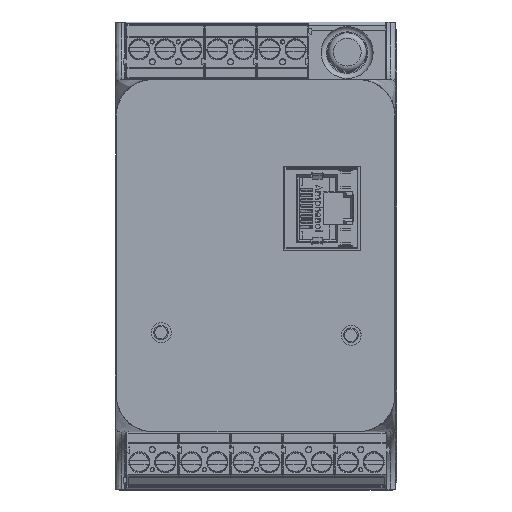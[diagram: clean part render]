
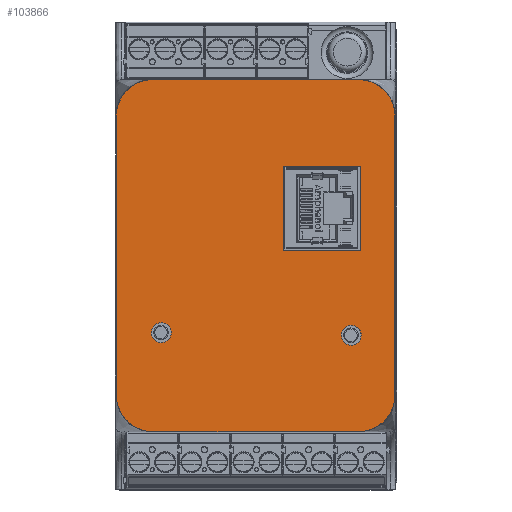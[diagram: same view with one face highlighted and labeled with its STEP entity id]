
A CAD part, top view. The second image highlights one B-rep face of the part: STEP entity #103866.
In plain terms, the highlighted planar face has unit normal (0, 0, 1).
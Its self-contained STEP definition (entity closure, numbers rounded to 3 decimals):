
#1016=ELLIPSE('',#109340,1.9,1.899);
#1017=ELLIPSE('',#109341,1.9,1.899);
#1232=FACE_BOUND('',#9302,.T.);
#1233=FACE_BOUND('',#9303,.T.);
#1234=FACE_BOUND('',#9304,.T.);
#1583=CIRCLE('',#109348,7.);
#1584=CIRCLE('',#109351,7.);
#1585=CIRCLE('',#109352,7.);
#1586=CIRCLE('',#109353,7.);
#3969=FACE_OUTER_BOUND('',#9301,.T.);
#9301=EDGE_LOOP('',(#66472,#66473,#66474,#66475,#66476,#66477,#66478,#66479));
#9302=EDGE_LOOP('',(#66480));
#9303=EDGE_LOOP('',(#66481));
#9304=EDGE_LOOP('',(#66482,#66483,#66484,#66485));
#15481=LINE('',#148129,#28032);
#15483=LINE('',#148133,#28034);
#15485=LINE('',#148137,#28036);
#15487=LINE('',#148140,#28038);
#15490=LINE('',#148152,#28041);
#15493=LINE('',#148157,#28044);
#15494=LINE('',#148161,#28045);
#15495=LINE('',#148165,#28046);
#28032=VECTOR('',#117610,10.);
#28034=VECTOR('',#117614,10.);
#28036=VECTOR('',#117618,10.);
#28038=VECTOR('',#117622,10.);
#28041=VECTOR('',#117633,10.);
#28044=VECTOR('',#117638,10.);
#28045=VECTOR('',#117641,10.);
#28046=VECTOR('',#117644,10.);
#40547=VERTEX_POINT('',#148101);
#40548=VERTEX_POINT('',#148122);
#40549=VERTEX_POINT('',#148126);
#40550=VERTEX_POINT('',#148128);
#40551=VERTEX_POINT('',#148132);
#40552=VERTEX_POINT('',#148136);
#40555=VERTEX_POINT('',#148145);
#40556=VERTEX_POINT('',#148147);
#40557=VERTEX_POINT('',#148151);
#40558=VERTEX_POINT('',#148156);
#40559=VERTEX_POINT('',#148158);
#40560=VERTEX_POINT('',#148160);
#40561=VERTEX_POINT('',#148162);
#40562=VERTEX_POINT('',#148164);
#50651=EDGE_CURVE('',#40547,#40547,#1016,.T.);
#50653=EDGE_CURVE('',#40548,#40548,#1017,.T.);
#50656=EDGE_CURVE('',#40550,#40549,#15481,.T.);
#50658=EDGE_CURVE('',#40551,#40550,#15483,.T.);
#50660=EDGE_CURVE('',#40552,#40551,#15485,.T.);
#50662=EDGE_CURVE('',#40549,#40552,#15487,.T.);
#50665=EDGE_CURVE('',#40555,#40556,#1583,.T.);
#50667=EDGE_CURVE('',#40557,#40556,#15490,.T.);
#50670=EDGE_CURVE('',#40555,#40558,#15493,.T.);
#50671=EDGE_CURVE('',#40559,#40558,#1584,.T.);
#50672=EDGE_CURVE('',#40559,#40560,#15494,.T.);
#50673=EDGE_CURVE('',#40561,#40560,#1585,.T.);
#50674=EDGE_CURVE('',#40561,#40562,#15495,.T.);
#50675=EDGE_CURVE('',#40557,#40562,#1586,.T.);
#66472=ORIENTED_EDGE('',*,*,#50665,.F.);
#66473=ORIENTED_EDGE('',*,*,#50670,.T.);
#66474=ORIENTED_EDGE('',*,*,#50671,.F.);
#66475=ORIENTED_EDGE('',*,*,#50672,.T.);
#66476=ORIENTED_EDGE('',*,*,#50673,.F.);
#66477=ORIENTED_EDGE('',*,*,#50674,.T.);
#66478=ORIENTED_EDGE('',*,*,#50675,.F.);
#66479=ORIENTED_EDGE('',*,*,#50667,.T.);
#66480=ORIENTED_EDGE('',*,*,#50651,.T.);
#66481=ORIENTED_EDGE('',*,*,#50653,.T.);
#66482=ORIENTED_EDGE('',*,*,#50660,.T.);
#66483=ORIENTED_EDGE('',*,*,#50658,.T.);
#66484=ORIENTED_EDGE('',*,*,#50656,.T.);
#66485=ORIENTED_EDGE('',*,*,#50662,.T.);
#94112=PLANE('',#109350);
#103866=ADVANCED_FACE('',(#3969,#1232,#1233,#1234),#94112,.T.);
#109340=AXIS2_PLACEMENT_3D('',#148102,#117601,#117602);
#109341=AXIS2_PLACEMENT_3D('',#148123,#117604,#117605);
#109348=AXIS2_PLACEMENT_3D('',#148148,#117628,#117629);
#109350=AXIS2_PLACEMENT_3D('',#148155,#117636,#117637);
#109351=AXIS2_PLACEMENT_3D('',#148159,#117639,#117640);
#109352=AXIS2_PLACEMENT_3D('',#148163,#117642,#117643);
#109353=AXIS2_PLACEMENT_3D('',#148166,#117645,#117646);
#117601=DIRECTION('center_axis',(0.,0.,
-1.));
#117602=DIRECTION('ref_axis',(0.,-1.,0.));
#117604=DIRECTION('center_axis',(0.,0.,
-1.));
#117605=DIRECTION('ref_axis',(0.,-1.,0.));
#117610=DIRECTION('',(1.,0.,0.));
#117614=DIRECTION('',(0.,1.,0.));
#117618=DIRECTION('',(-1.,0.,0.));
#117622=DIRECTION('',(0.,-1.,0.));
#117628=DIRECTION('center_axis',(0.,0.,
-1.));
#117629=DIRECTION('ref_axis',(-0.707,0.707,0.));
#117633=DIRECTION('',(-1.,0.,0.));
#117636=DIRECTION('center_axis',(0.,0.,
1.));
#117637=DIRECTION('ref_axis',(1.,0.,0.));
#117638=DIRECTION('',(0.,-1.,0.));
#117639=DIRECTION('center_axis',(0.,0.,
-1.));
#117640=DIRECTION('ref_axis',(-0.707,-0.707,0.));
#117641=DIRECTION('',(1.,0.,0.));
#117642=DIRECTION('center_axis',(0.,0.,
-1.));
#117643=DIRECTION('ref_axis',(0.707,-0.707,0.));
#117644=DIRECTION('',(0.,1.,0.));
#117645=DIRECTION('center_axis',(0.,0.,
-1.));
#117646=DIRECTION('ref_axis',(0.707,0.707,0.));
#148101=CARTESIAN_POINT('',(-18.112,-12.637,46.886));
#148102=CARTESIAN_POINT('Origin',(-18.112,-14.537,46.886));
#148122=CARTESIAN_POINT('',(18.32,-13.138,46.886));
#148123=CARTESIAN_POINT('Origin',(18.32,-15.038,46.886));
#148126=CARTESIAN_POINT('',(20.177,17.258,46.886));
#148128=CARTESIAN_POINT('',(5.287,17.258,46.886));
#148129=CARTESIAN_POINT('',(-6.284,17.258,46.886));
#148132=CARTESIAN_POINT('',(5.287,1.25,46.886));
#148133=CARTESIAN_POINT('',(5.287,-2.145,46.886));
#148136=CARTESIAN_POINT('',(20.177,1.25,46.886));
#148137=CARTESIAN_POINT('',(0.911,1.25,46.886));
#148140=CARTESIAN_POINT('',(20.177,5.859,46.886));
#148145=CARTESIAN_POINT('',(-26.75,27.022,46.886));
#148147=CARTESIAN_POINT('',(-19.75,34.022,46.886));
#148148=CARTESIAN_POINT('Origin',(-19.75,27.022,46.886));
#148151=CARTESIAN_POINT('',(19.705,34.022,46.886));
#148152=CARTESIAN_POINT('',(26.705,34.022,46.886));
#148155=CARTESIAN_POINT('Origin',(-17.854,-5.54,46.886));
#148156=CARTESIAN_POINT('',(-26.75,-26.522,46.886));
#148157=CARTESIAN_POINT('',(-26.75,34.022,46.886));
#148158=CARTESIAN_POINT('',(-19.75,-33.522,46.886));
#148159=CARTESIAN_POINT('Origin',(-19.75,-26.522,46.886));
#148160=CARTESIAN_POINT('',(19.705,-33.522,46.886));
#148161=CARTESIAN_POINT('',(-26.75,-33.522,46.886));
#148162=CARTESIAN_POINT('',(26.705,-26.522,46.886));
#148163=CARTESIAN_POINT('Origin',(19.705,-26.522,46.886));
#148164=CARTESIAN_POINT('',(26.705,27.022,46.886));
#148165=CARTESIAN_POINT('',(26.705,-33.522,46.886));
#148166=CARTESIAN_POINT('Origin',(19.705,27.022,46.886));
